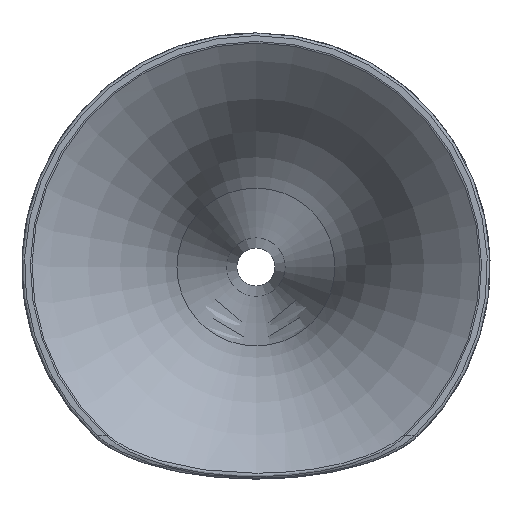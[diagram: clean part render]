
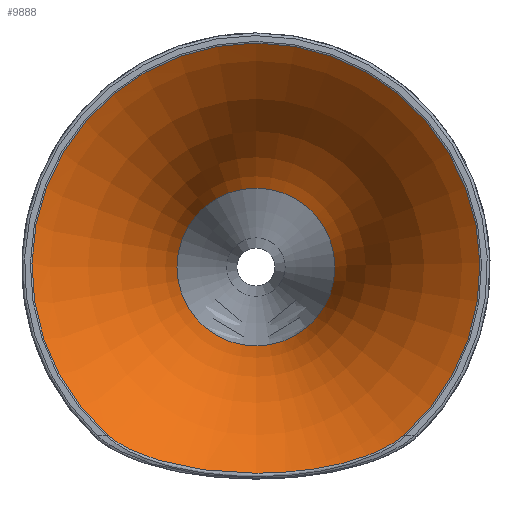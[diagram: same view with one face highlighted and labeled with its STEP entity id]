
A CAD part, front view. The second image highlights one B-rep face of the part: STEP entity #9888.
In plain terms, the highlighted toroidal (fillet/blend) face has major radius 254.72 mm and minor radius 211.137 mm.
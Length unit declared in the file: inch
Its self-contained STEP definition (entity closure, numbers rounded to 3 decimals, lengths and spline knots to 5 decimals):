
#108=TOROIDAL_SURFACE('',#10534,10.02836,8.3125);
#403=CIRCLE('',#10517,5.14195);
#417=CIRCLE('',#10535,8.3125);
#418=CIRCLE('',#10536,1.8125);
#1242=FACE_OUTER_BOUND('',#1831,.T.);
#1831=EDGE_LOOP('',(#8984,#8985,#8986,#8987,#8988,#8989));
#2403=B_SPLINE_CURVE_WITH_KNOTS('',3,(#23328,#23329,#23330,#23331,#23332,
#23333,#23334,#23335,#23336),.UNSPECIFIED.,.F.,.F.,(4,1,1,1,1,1,4),(0.,
0.65883,1.31765,2.63531,5.27061,7.90592,
9.22355),.UNSPECIFIED.);
#2404=B_SPLINE_CURVE_WITH_KNOTS('',3,(#23337,#23338,#23339,#23340,#23341,
#23342,#23343,#23344,#23345),.UNSPECIFIED.,.F.,.F.,(4,1,1,1,1,1,4),(9.22355,
10.54123,13.17654,15.81184,17.1295,17.78832,
18.44715),.UNSPECIFIED.);
#4568=VERTEX_POINT('',#23236);
#4569=VERTEX_POINT('',#23238);
#4571=VERTEX_POINT('',#23327);
#4608=VERTEX_POINT('',#26437);
#6020=EDGE_CURVE('',#4568,#4569,#403,.T.);
#6024=EDGE_CURVE('',#4569,#4571,#2403,.T.);
#6025=EDGE_CURVE('',#4571,#4568,#2404,.T.);
#6080=EDGE_CURVE('',#4571,#4608,#417,.T.);
#6081=EDGE_CURVE('',#4608,#4608,#418,.T.);
#8984=ORIENTED_EDGE('',*,*,#6020,.F.);
#8985=ORIENTED_EDGE('',*,*,#6025,.F.);
#8986=ORIENTED_EDGE('',*,*,#6080,.T.);
#8987=ORIENTED_EDGE('',*,*,#6081,.T.);
#8988=ORIENTED_EDGE('',*,*,#6080,.F.);
#8989=ORIENTED_EDGE('',*,*,#6024,.F.);
#9888=ADVANCED_FACE('',(#1242),#108,.T.);
#10517=AXIS2_PLACEMENT_3D('',#23239,#12283,#12284);
#10534=AXIS2_PLACEMENT_3D('',#26436,#12321,#12322);
#10535=AXIS2_PLACEMENT_3D('',#26438,#12323,#12324);
#10536=AXIS2_PLACEMENT_3D('',#26439,#12325,#12326);
#12283=DIRECTION('center_axis',(0.,1.,0.));
#12284=DIRECTION('ref_axis',(0.,0.,1.));
#12321=DIRECTION('center_axis',(0.,1.,0.));
#12322=DIRECTION('ref_axis',(0.,0.,1.));
#12323=DIRECTION('center_axis',(-1.,0.,0.));
#12324=DIRECTION('ref_axis',(0.,0.,-1.));
#12325=DIRECTION('center_axis',(0.,1.,0.));
#12326=DIRECTION('ref_axis',(1.,0.,0.));
#23236=CARTESIAN_POINT('',(-3.41121,-22.45681,-3.84751));
#23238=CARTESIAN_POINT('',(3.41121,-22.45681,-3.84751));
#23239=CARTESIAN_POINT('Origin',(0.,-22.45681,0.));
#23327=CARTESIAN_POINT('',(0.,-22.13972,-4.73294));
#23328=CARTESIAN_POINT('Ctrl Pts',(3.41121,-22.45681,-3.84751));
#23329=CARTESIAN_POINT('Ctrl Pts',(3.34698,-22.45681,-3.90446));
#23330=CARTESIAN_POINT('Ctrl Pts',(3.20962,-22.45004,-4.00799));
#23331=CARTESIAN_POINT('Ctrl Pts',(2.91448,-22.42075,-4.18217));
#23332=CARTESIAN_POINT('Ctrl Pts',(2.36481,-22.34576,-4.41804));
#23333=CARTESIAN_POINT('Ctrl Pts',(1.53701,-22.22639,-4.62478));
#23334=CARTESIAN_POINT('Ctrl Pts',(0.686,-22.15098,
-4.7188));
#23335=CARTESIAN_POINT('Ctrl Pts',(0.1715,-22.13973,
-4.73295));
#23336=CARTESIAN_POINT('Ctrl Pts',(0.,-22.13975,
-4.73296));
#23337=CARTESIAN_POINT('Ctrl Pts',(0.,-22.13975,
-4.73296));
#23338=CARTESIAN_POINT('Ctrl Pts',(-0.1715,-22.13976,
-4.73297));
#23339=CARTESIAN_POINT('Ctrl Pts',(-0.686,-22.15109,
-4.71887));
#23340=CARTESIAN_POINT('Ctrl Pts',(-1.53688,-22.22621,
-4.62455));
#23341=CARTESIAN_POINT('Ctrl Pts',(-2.36506,-22.34588,-4.41813));
#23342=CARTESIAN_POINT('Ctrl Pts',(-2.91438,-22.42075,
-4.18224));
#23343=CARTESIAN_POINT('Ctrl Pts',(-3.20963,-22.45005,
-4.00801));
#23344=CARTESIAN_POINT('Ctrl Pts',(-3.34698,-22.45681,-3.90446));
#23345=CARTESIAN_POINT('Ctrl Pts',(-3.41121,-22.45681,
-3.84751));
#26436=CARTESIAN_POINT('Origin',(0.,-15.73218,0.));
#26437=CARTESIAN_POINT('',(0.,-16.99601,-1.8125));
#26438=CARTESIAN_POINT('Origin',(0.,-15.73218,
-10.02836));
#26439=CARTESIAN_POINT('Origin',(0.,-16.99601,0.));
